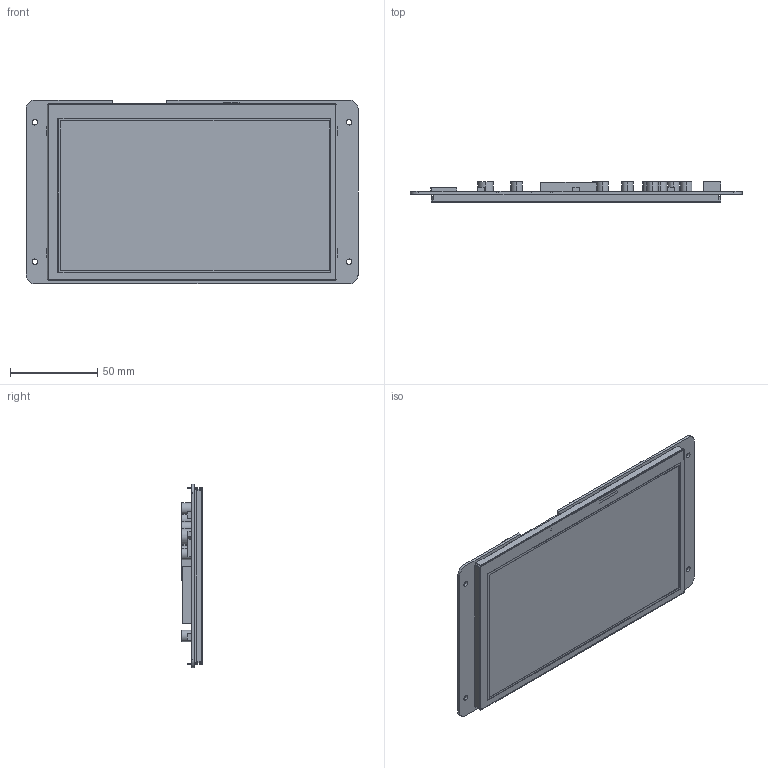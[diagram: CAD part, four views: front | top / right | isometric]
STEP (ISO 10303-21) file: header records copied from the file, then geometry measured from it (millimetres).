
FILE_DESCRIPTION (( 'STEP AP214' ), '1' );
FILE_NAME ('DMG10600T070-09WN 3D.STEP', '2023-09-18T07:09:39', ( '' ), ( 'Microsoft' ), 'SwSTEP 2.0', 'SolidWorks 2017', '' );
FILE_SCHEMA (( 'AUTOMOTIVE_DESIGN' ));
Length unit declared in the file: millimetre
Products named in the file (4): DMG10600T070-09W; TK070019; DMG10600T070-09WN 3D; LI10600T070HC7004
Assembly tree (3 placements, depth 2):
  DMG10600T070-09WN 3D
    DMG10600T070-09W
    TK070019
    LI10600T070HC7004
Bounding box: 190.5 x 11.7 x 105.41 mm (x, y, z)
Volume: 87711.5 mm3; surface area: 88796 mm2
Topology: 3 solids, 3 shells, 355 faces, 975 edges, 642 vertices
Faces by surface type: plane 197, cylinder 150, bspline 8
Entity records: 15001 total; most frequent: CARTESIAN_POINT 2203, ORIENTED_EDGE 1950, DIRECTION 1948, EDGE_CURVE 975, LINE 670, VECTOR 670, VERTEX_POINT 642, AXIS2_PLACEMENT_3D 639
